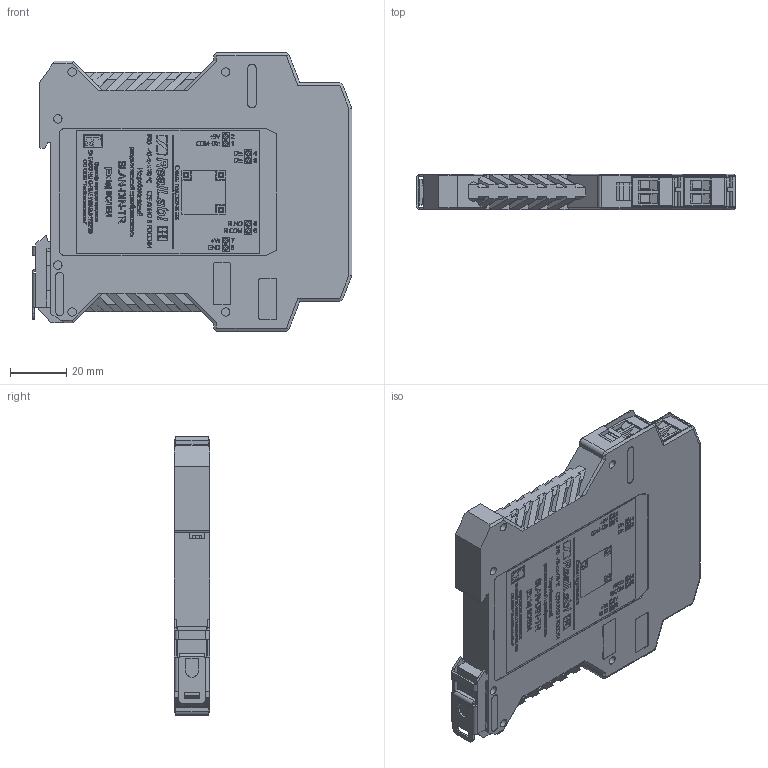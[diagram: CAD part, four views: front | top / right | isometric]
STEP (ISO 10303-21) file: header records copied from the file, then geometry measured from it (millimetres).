
FILE_DESCRIPTION(('STEP AP214'), '1');
FILE_NAME('SLAN-DI-O', '', ('UNSPECIFIED'), ('UNSPECIFIED'), 'C3D Converter', 'C3D Toolkit', '');
FILE_SCHEMA(('AUTOMOTIVE_DESIGN { 1 0 10303 214 3 1 1}'));
Length unit declared in the file: millimetre
Products named in the file (1): НПКГ.426433.009
Bounding box: 113.6 x 12.6 x 99 mm (x, y, z)
Volume: 55937.9 mm3; surface area: 68626.6 mm2
Topology: 1 solids, 35 shells, 7068 faces, 19388 edges, 12839 vertices
Faces by surface type: plane 3863, extrusion 2873, cylinder 312, cone 20
Full cylindrical faces by diameter (mm): 1.4 x8, 1.8 x4, 1.95 x8, 3 x16, 3.783 x8, 4 x8
Entity records: 293019 total; most frequent: CARTESIAN_POINT 67823, ORIENTED_EDGE 38672, DIRECTION 25483, EDGE_CURVE 19336, VECTOR 15643, VERTEX_POINT 12839, LINE 12770, B_SPLINE_CURVE_WITH_KNOTS 8635
